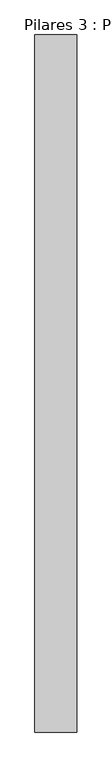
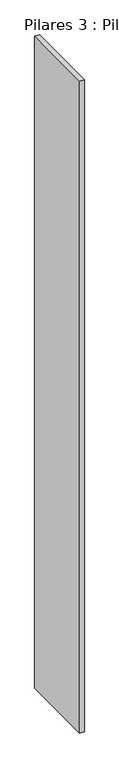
"""IFC4 building model written with IfcOpenShell, lengths in millimetres: column geometry, Pilares 3 : Pilares 1."""

from ifc_helpers import new_model, si_unit, frame, origin, place, context, project, spatial, polyline, outline, extrude, source, transform, mapped, element, save


def pilares_3_pilares_1_9bfee711(model_context):
    return source(origin(), model_context, "Body", "SweptSolid", [
        extrude(outline(polyline([(43089.5059119, 28504.010184), (43089.5059119, 25674.0112971), (42919.5059119, 25674.0112971), (42919.5059119, 28504.010184), (43089.5059119, 28504.010184)])), frame((0.0, 0.0, -7250.0), z_axis=(0.0, 0.0, 1.0), x_axis=(1.0, 0.0, 0.0)), (0.0, 0.0, 1.0), 25050.0),
    ])


if __name__ == "__main__":
    model = new_model("IFC4")
    model_context = context("Model", 3, world=origin())
    ifc_project = project(units=[si_unit("LENGTHUNIT", "METRE", prefix="MILLI")], contexts=[model_context])
    site = spatial("IfcSite", under=ifc_project)
    building = spatial("IfcBuilding", under=site)
    placement = place(None, origin())
    pilares_3_pilares_1_shape = pilares_3_pilares_1_9bfee711(model_context)
    element("IfcColumn", 1, ObjectType="Pilares 3 : Pilares 1", at=placement, inside=building, context=model_context, shape_type="MappedRepresentation", body=[
        mapped(pilares_3_pilares_1_shape, transform((0.0, 0.0, 0.0), x_axis=(1.0, 0.0, 0.0), y_axis=(0.0, 1.0, 0.0), z_axis=(0.0, 0.0, 1.0))),
    ])
    save(model, "model.ifc")
